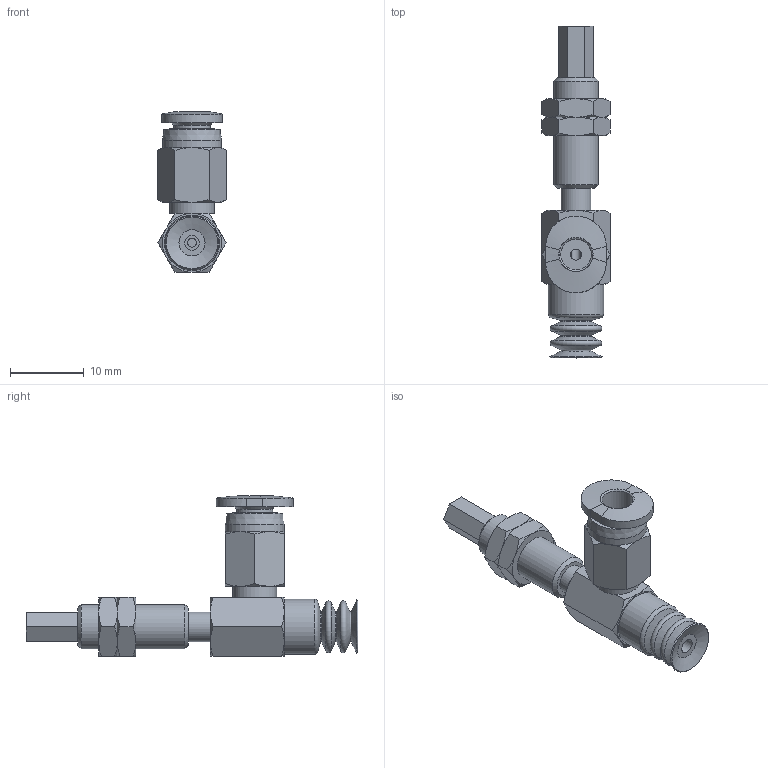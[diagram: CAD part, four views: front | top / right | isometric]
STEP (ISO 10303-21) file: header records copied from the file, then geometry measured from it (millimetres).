
FILE_DESCRIPTION(('STEP AP203'),'1');
FILE_NAME('-O.stp','2025-04-03T06:13:50',(' '),(' '),'Spatial InterOp 3D',' ',' ');
FILE_SCHEMA(('CONFIG_CONTROL_DESIGN'));
Length unit declared in the file: millimetre
Products named in the file (7): BNABPCYS-7-3-※-O; Connector_s-7-3; Nut napc_s-7-3; NAPCTS-7-3-FBODY; NAPCTS-7-3-MBODY; BPCG-7-※; PC-C_04-M3
Assembly tree (7 placements, depth 2):
  BNABPCYS-7-3-※-O
    Connector_s-7-3
    Nut napc_s-7-3  x2
    NAPCTS-7-3-FBODY
    NAPCTS-7-3-MBODY
    BPCG-7-※
    PC-C_04-M3
Bounding box: 9.24 x 45 x 21.77 mm (x, y, z)
Volume: 1527.9 mm3; surface area: 3103.3 mm2
Topology: 6 solids, 8 shells, 190 faces, 390 edges, 230 vertices
Faces by surface type: plane 74, cone 72, cylinder 24, torus 13, bspline 4, revolution 3
Full cylindrical faces by diameter (mm): 1.2 x1, 2 x1, 2.459 x2, 2.5 x2, 3 x2, 4 x4, 4.9 x1, 5.188 x2, 6 x4, 6.1 x1, 7.5 x1, 8 x1
Entity records: 4792 total; most frequent: CARTESIAN_POINT 1271, DIRECTION 665, ORIENTED_EDGE 562, AXIS2_PLACEMENT_3D 294, EDGE_CURVE 282, EDGE_LOOP 248, VERTEX_POINT 198, FACE_OUTER_BOUND 141
